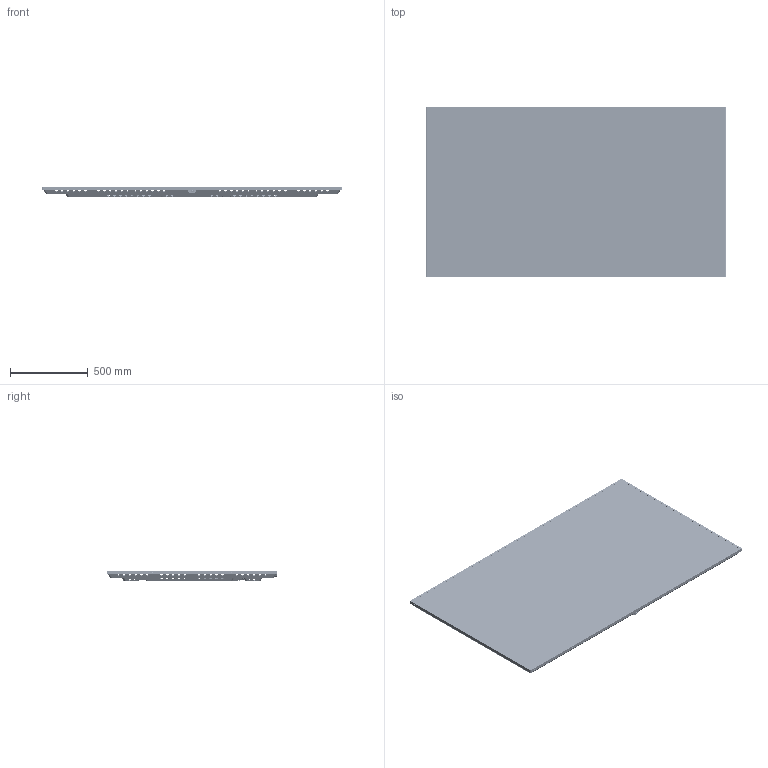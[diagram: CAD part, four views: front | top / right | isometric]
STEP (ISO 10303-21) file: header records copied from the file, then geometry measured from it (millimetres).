
FILE_DESCRIPTION (( 'STEP AP203' ), '1' );
FILE_NAME ('SLE862 Panel 3D 011326.STEP', '2026-01-13T23:29:43', ( '' ), ( '' ), 'SwSTEP 2.0', 'SolidWorks 2025', '' );
FILE_SCHEMA (( 'CONFIG_CONTROL_DESIGN' ));
Products named in the file (1): SLE862 Panel 3D 011326
Bounding box: 1928.6 x 1099.16 x 70.5 mm (x, y, z)
Volume: 3082504.5 mm3; surface area: 9366772 mm2
Topology: 29 solids, 29 shells, 15622 faces, 44662 edges, 29288 vertices
Faces by surface type: cylinder 11660, plane 2797, bspline 451, torus 375, cone 288, sphere 51
Entity records: 601278 total; most frequent: CARTESIAN_POINT 155769, DIRECTION 96793, ORIENTED_EDGE 89260, EDGE_CURVE 44630, AXIS2_PLACEMENT_3D 38857, VERTEX_POINT 29288, EDGE_LOOP 26014, CIRCLE 23685
